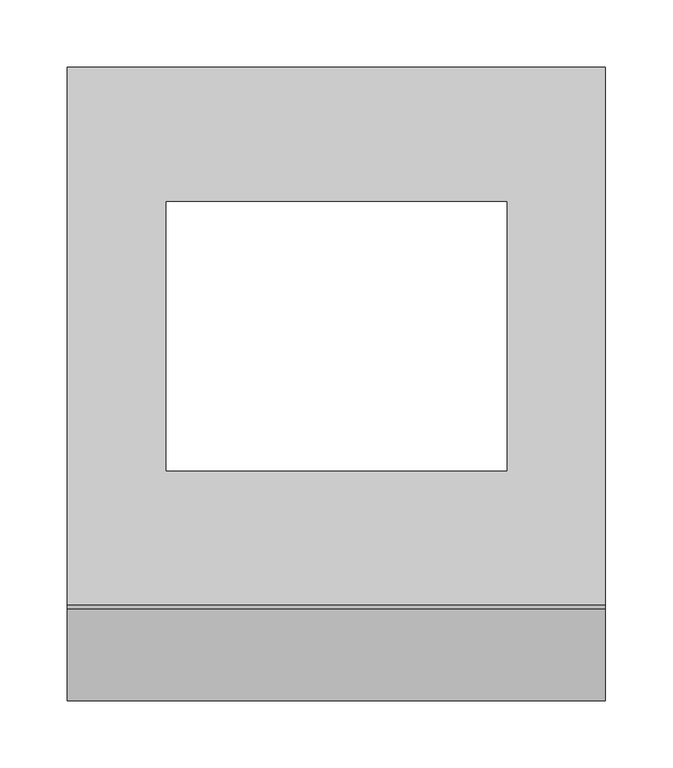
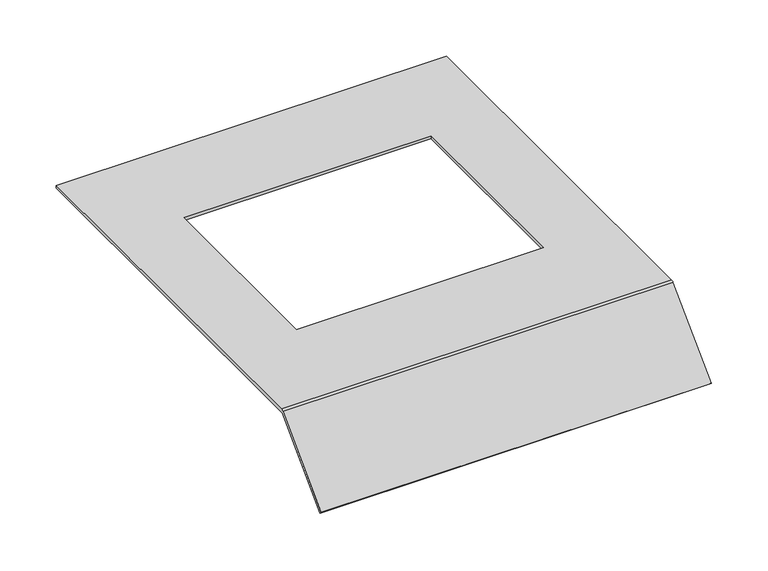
"""IFC4 building model written with IfcOpenShell, lengths in millimetres: proxy geometry, Electrical_Installation_Hager_Covers-With-Installation-Opening-E09 : Electrical_Installation_Hager_Covers-With-Installation-Opening-E09."""

from ifc_helpers import new_model, si_unit, frame, origin, place, context, project, spatial, polyline, circle_curve, source, transform, mapped, element, save
from ifc_brep_helpers import plane_surface, cylinder_surface, revolved_surface, advanced_brep


def electrical_fixtures_59ef84c7(model_context):
    return source(origin(), model_context, "Body", "AdvancedBrep", [
        advanced_brep(
        [(0.0, 200.0, 40.5), (0.0, 200.0, 37.5), (0.0, -199.8229541, 37.5), (0.0, -200.8322972, 37.0819164), (0.0, -268.712807, -30.7985934), (0.0, -270.8341273, -28.6772731), (0.0, -202.8206472, 39.336207), (0.0, -200.0110025, 40.5), (400.0, 200.0, 40.5), (400.0, -200.0110025, 40.5), (400.0, -202.8206472, 39.336207), (400.0, -270.8341273, -28.6772731), (400.0, -268.712807, -30.7985934), (400.0, -200.8322972, 37.0819164), (400.0, -199.8229541, 37.5), (400.0, 200.0, 37.5), (326.5, 100.0, 37.5), (73.5, 100.0, 37.5), (73.5, -100.0, 37.5), (326.5, -100.0, 37.5), (73.5, 100.0, 40.5), (326.5, 100.0, 40.5), (326.5, -100.0, 40.5), (73.5, -100.0, 40.5)],
        [
            (0, 1),
            (1, 2),
            (2, 3, circle_curve(frame((0.0, -199.8229541, 36.0725733), z_axis=(1.0, 0.0, 0.0), x_axis=(0.0, 1.0, 0.0)), 1.4274267)),
            (3, 4),
            (4, 5),
            (5, 6),
            (6, 7, circle_curve(frame((0.0, -200.0110025, 36.5265623), z_axis=(-1.0, 0.0, 0.0), x_axis=(0.0, 1.0, 0.0)), 3.9734377)),
            (7, 0),
            (8, 9),
            (9, 10, circle_curve(frame((400.0, -200.0110025, 36.5265623), z_axis=(1.0, 0.0, 0.0), x_axis=(0.0, 1.0, 0.0)), 3.9734377)),
            (10, 11),
            (11, 12),
            (12, 13),
            (13, 14, circle_curve(frame((400.0, -199.8229541, 36.0725733), z_axis=(-1.0, 0.0, 0.0), x_axis=(0.0, 1.0, 0.0)), 1.4274267)),
            (14, 15),
            (15, 8),
            (0, 8),
            (15, 1),
            (14, 2),
            (16, 17),
            (17, 18),
            (18, 19),
            (19, 16),
            (13, 3),
            (12, 4),
            (11, 5),
            (10, 6),
            (9, 7),
            (20, 21),
            (21, 22),
            (22, 23),
            (23, 20),
            (16, 21),
            (20, 17),
            (23, 18),
            (22, 19),
        ],
        [
            plane_surface(frame((0.0, 0.3269864, 15.0), z_axis=(-1.0, 0.0, 0.0), x_axis=(0.0, 0.0, 1.0))),
            plane_surface(frame((400.0, 0.3269864, 15.0), z_axis=(1.0, 0.0, 0.0), x_axis=(0.0, 0.0, 1.0))),
            plane_surface(frame((0.0, 200.0, 40.5), z_axis=(0.0, 1.0, 0.0), x_axis=(1.0, 0.0, 0.0))),
            plane_surface(frame((0.0, 200.0, 37.5), z_axis=(0.0, 0.0, -1.0), x_axis=(1.0, 0.0, 0.0))),
            revolved_surface(polyline([(400.0, -198.3955274, 36.0725733), (0.0, -198.3955274, 36.0725733)]), (0.0, -199.8229541, 36.0725733), (1.0, 0.0, 0.0)),
            plane_surface(frame((0.0, -200.8322972, 37.0819164), z_axis=(0.0, 0.7071067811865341, -0.707106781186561), x_axis=(1.0, 0.0, 0.0))),
            plane_surface(frame((0.0, -268.712807, -30.7985934), z_axis=(0.0, -0.7071067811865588, -0.7071067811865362), x_axis=(1.0, 0.0, 0.0))),
            plane_surface(frame((0.0, -270.8341273, -28.6772731), z_axis=(0.0, -0.707106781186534, 0.7071067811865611), x_axis=(1.0, 0.0, 0.0))),
            cylinder_surface(frame((0.0, -200.0110025, 36.5265623), z_axis=(-1.0, 0.0, 0.0), x_axis=(0.0, 1.0, 0.0)), 3.9734377),
            plane_surface(frame((0.0, -200.0110025, 40.5), z_axis=(0.0, 0.0, 1.0), x_axis=(1.0, 0.0, 0.0))),
            plane_surface(frame((326.5, 100.0, 250.0), z_axis=(0.0, -1.0, 0.0), x_axis=(0.0, 0.0, -1.0))),
            plane_surface(frame((73.5, 100.0, 250.0), z_axis=(1.0, 0.0, 0.0), x_axis=(0.0, 0.0, -1.0))),
            plane_surface(frame((73.5, -100.0, 250.0), z_axis=(0.0, 1.0, 0.0), x_axis=(0.0, 0.0, -1.0))),
            plane_surface(frame((326.5, -100.0, 250.0), z_axis=(-1.0, 0.0, 0.0), x_axis=(0.0, 0.0, -1.0))),
        ],
        [
            (0, [[1, 2, 3, 4, 5, 6, 7, 8]]),
            (1, [[9, 10, 11, 12, 13, 14, 15, 16]]),
            (2, [[-1, 17, -16, 18]]),
            (3, [[-2, -18, -15, 19], [20, 21, 22, 23]]),
            (4, [[-3, -19, -14, 24]]),
            (5, [[-4, -24, -13, 25]]),
            (6, [[-5, -25, -12, 26]]),
            (7, [[-6, -26, -11, 27]]),
            (8, [[-7, -27, -10, 28]]),
            (9, [[-8, -28, -9, -17], [29, 30, 31, 32]]),
            (10, [[33, -29, 34, -20]]),
            (11, [[-34, -32, 35, -21]]),
            (12, [[-35, -31, 36, -22]]),
            (13, [[-33, -23, -36, -30]]),
        ],
    ),
    ])


if __name__ == "__main__":
    model = new_model("IFC4")
    model_context = context("Model", 3, world=origin())
    ifc_project = project(units=[si_unit("LENGTHUNIT", "METRE", prefix="MILLI")], contexts=[model_context])
    site = spatial("IfcSite", under=ifc_project)
    building = spatial("IfcBuilding", under=site)
    placement = place(None, origin())
    electrical_fixtures_shape = electrical_fixtures_59ef84c7(model_context)
    element("IfcBuildingElementProxy", 1, Name="Electrical_Installation_Hager_Covers-With-Installation-Opening-E09 : Electrical_Installation_Hager_Covers-With-Installation-Opening-E09", ObjectType="Electrical_Installation_Hager_Covers-With-Installation-Opening-E09 : Electrical_Installation_Hager_Covers-With-Installation-Opening-E09", at=placement, inside=building, context=model_context, shape_type="MappedRepresentation", body=[
        mapped(electrical_fixtures_shape, transform((0.0, 0.0, 0.0), x_axis=(1.0, 0.0, 0.0), y_axis=(0.0, 1.0, 0.0), z_axis=(0.0, 0.0, 1.0))),
    ])
    save(model, "model.ifc")
